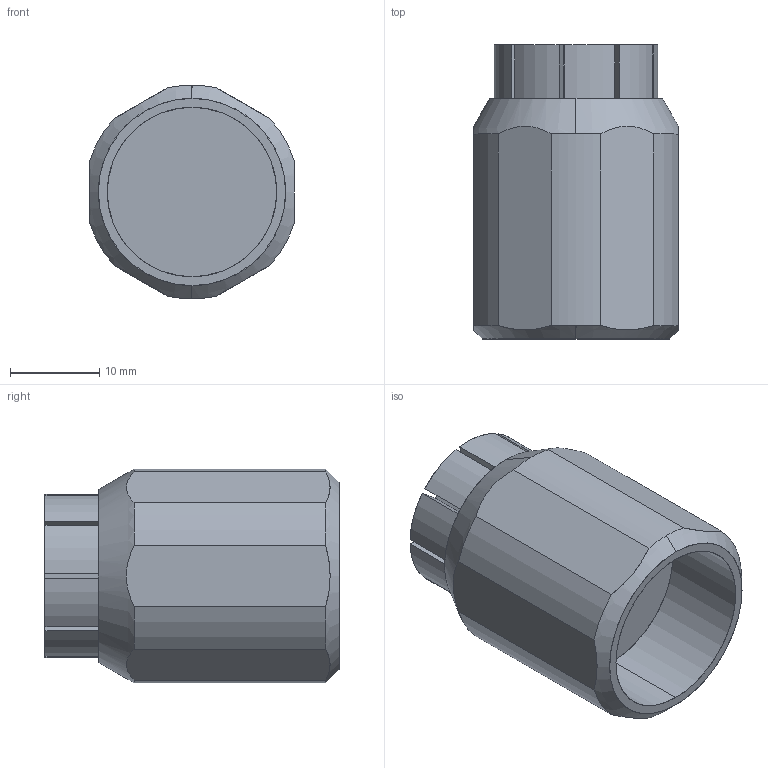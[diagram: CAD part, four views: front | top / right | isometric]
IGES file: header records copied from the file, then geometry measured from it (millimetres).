
Start section: SolidWorks IGES file using analytic representation for surfaces
Global section: file name: G:\Silvent\Ritningar\Övrigt\IGES\Silvent 703.IGS; native system: SolidWorks 2011; preprocessor: SolidWorks 2011; author: silvrati; date: 111206.154449; units: millimetre
Bounding box: 23 x 33 x 24 mm (x, y, z)
Surface area: 4004.5 mm2 (no closed solid volume)
Topology: 0 solids, 0 shells, 78 faces, 638 edges, 638 vertices
Faces by surface type: bspline 55, revolution 23
